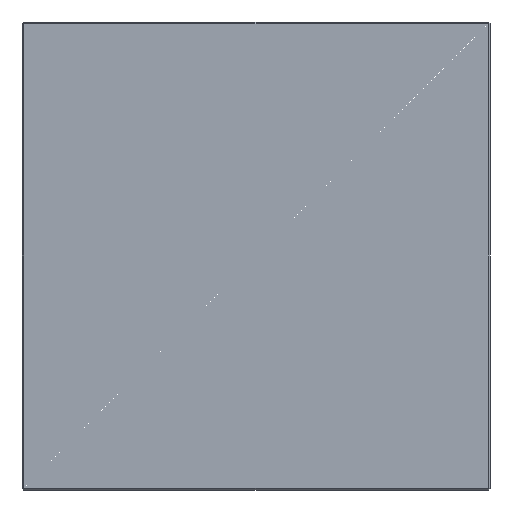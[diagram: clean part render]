
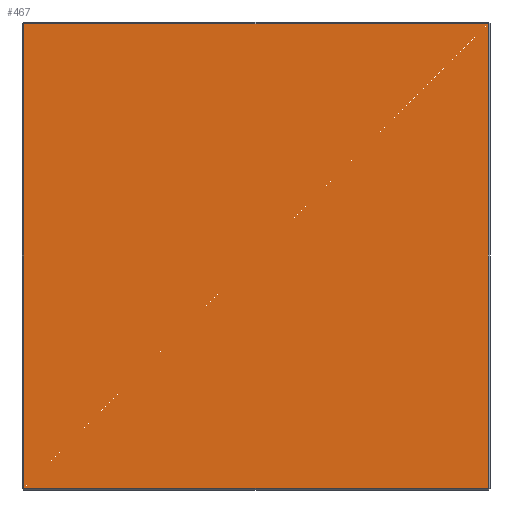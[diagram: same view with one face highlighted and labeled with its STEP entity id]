
A CAD part, front view. The second image highlights one B-rep face of the part: STEP entity #467.
In plain terms, the highlighted planar face has unit normal (0, -1, 0).
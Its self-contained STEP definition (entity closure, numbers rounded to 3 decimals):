
#25 = EDGE_CURVE ( 'NONE', #164, #474, #306, .T. ) ;
#50 = VECTOR ( 'NONE', #441, 1000. ) ;
#51 = CARTESIAN_POINT ( 'NONE',  ( 122., 0., 0. ) ) ;
#60 = AXIS2_PLACEMENT_3D ( 'NONE', #439, #612, #234 ) ;
#79 = CARTESIAN_POINT ( 'NONE',  ( 0., 0., 122. ) ) ;
#80 = VECTOR ( 'NONE', #94, 1000. ) ;
#94 = DIRECTION ( 'NONE',  ( 0., 0., 1. ) ) ;
#145 = FACE_OUTER_BOUND ( 'NONE', #215, .T. ) ;
#150 = CARTESIAN_POINT ( 'NONE',  ( -122., 0., 122. ) ) ;
#161 = EDGE_CURVE ( 'NONE', #242, #207, #290, .T. ) ;
#164 = VERTEX_POINT ( 'NONE', #218 ) ;
#172 = VECTOR ( 'NONE', #373, 1000. ) ;
#196 = ORIENTED_EDGE ( 'NONE', *, *, #571, .T. ) ;
#207 = VERTEX_POINT ( 'NONE', #397 ) ;
#215 = EDGE_LOOP ( 'NONE', ( #226, #486, #641, #196 ) ) ;
#218 = CARTESIAN_POINT ( 'NONE',  ( 122., 0., -122. ) ) ;
#226 = ORIENTED_EDGE ( 'NONE', *, *, #25, .T. ) ;
#234 = DIRECTION ( 'NONE',  ( 0., 0., 1. ) ) ;
#242 = VERTEX_POINT ( 'NONE', #150 ) ;
#265 = CARTESIAN_POINT ( 'NONE',  ( 0., 0., -122. ) ) ;
#276 = VECTOR ( 'NONE', #333, 1000. ) ;
#290 = LINE ( 'NONE', #454, #276 ) ;
#294 = EDGE_CURVE ( 'NONE', #474, #242, #438, .T. ) ;
#306 = LINE ( 'NONE', #51, #80 ) ;
#333 = DIRECTION ( 'NONE',  ( 0., 0., -1. ) ) ;
#373 = DIRECTION ( 'NONE',  ( 1., 0., 0. ) ) ;
#397 = CARTESIAN_POINT ( 'NONE',  ( -122., 0., -122. ) ) ;
#438 = LINE ( 'NONE', #79, #50 ) ;
#439 = CARTESIAN_POINT ( 'NONE',  ( 0., 0., 0. ) ) ;
#441 = DIRECTION ( 'NONE',  ( -1., 0., 0. ) ) ;
#454 = CARTESIAN_POINT ( 'NONE',  ( -122., 0., 0. ) ) ;
#467 = ADVANCED_FACE ( 'NONE', ( #145 ), #511, .F. ) ;
#474 = VERTEX_POINT ( 'NONE', #643 ) ;
#486 = ORIENTED_EDGE ( 'NONE', *, *, #294, .T. ) ;
#511 = PLANE ( 'NONE',  #60 ) ;
#527 = LINE ( 'NONE', #265, #172 ) ;
#571 = EDGE_CURVE ( 'NONE', #207, #164, #527, .T. ) ;
#612 = DIRECTION ( 'NONE',  ( 0., 1., 0. ) ) ;
#641 = ORIENTED_EDGE ( 'NONE', *, *, #161, .T. ) ;
#643 = CARTESIAN_POINT ( 'NONE',  ( 122., 0., 122. ) ) ;
